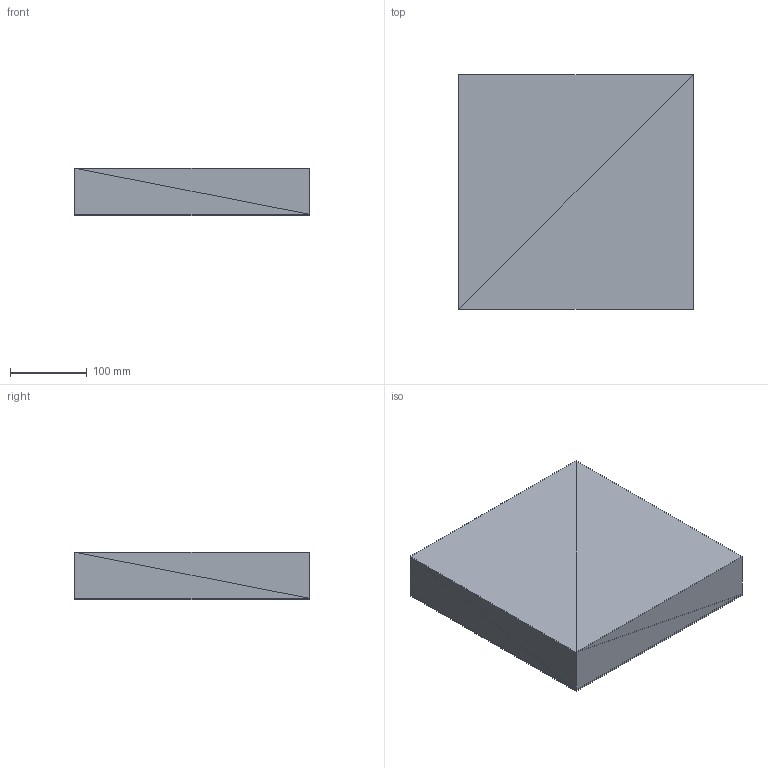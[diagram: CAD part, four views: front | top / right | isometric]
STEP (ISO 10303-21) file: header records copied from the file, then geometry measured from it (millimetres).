
FILE_DESCRIPTION(('ISINAC STEP AP214'),'2;1');
FILE_NAME('ISINAC_C.305_60mm_IMANTADA','2026-05-03T10:49:19',('ISINAC'),('www.isinac.com'),'ISINAC BIM Generator 1.0','','');
FILE_SCHEMA(('AUTOMOTIVE_DESIGN'));
Length unit declared in the file: millimetre
Products named in the file (1): ISINAC_C.305_60mm_IMANTADA
Bounding box: 305 x 305 x 62 mm (x, y, z)
Surface area: 447740 mm2 (no closed solid volume)
Topology: 0 solids, 24 shells, 24 faces, 72 edges, 72 vertices
Faces by surface type: plane 24
Entity records: 277 total; most frequent: CARTESIAN_POINT 96, DIRECTION 48, POLY_LOOP 24, FACE_OUTER_BOUND 24, AXIS2_PLACEMENT_3D 24, PLANE 24, FACE_SURFACE 24, CLOSED_SHELL 1
